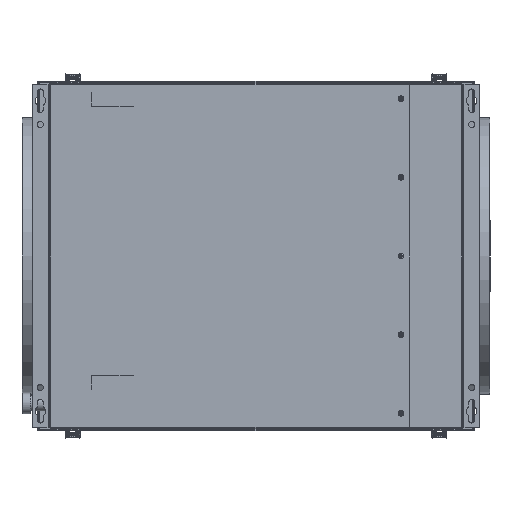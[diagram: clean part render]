
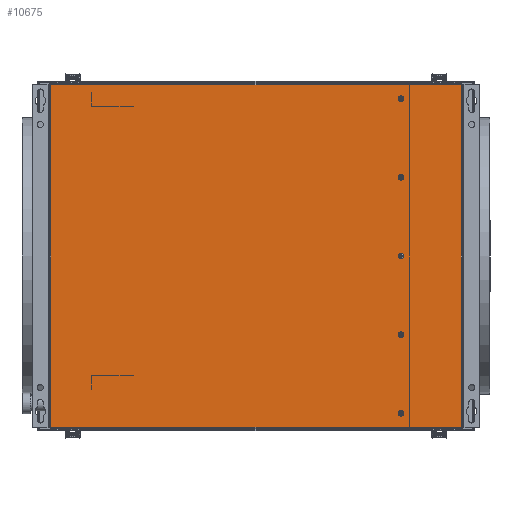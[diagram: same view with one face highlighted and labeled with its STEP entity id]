
A CAD part, front view. The second image highlights one B-rep face of the part: STEP entity #10675.
In plain terms, the highlighted planar face has unit normal (0, -1, 0).
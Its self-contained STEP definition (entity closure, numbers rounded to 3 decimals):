
#623 = DIRECTION ( 'NONE',  ( 0., -1., 0. ) ) ;
#824 = CARTESIAN_POINT ( 'NONE',  ( -297., 0., 248. ) ) ;
#950 = CARTESIAN_POINT ( 'NONE',  ( 210., 0., 114. ) ) ;
#1890 = CARTESIAN_POINT ( 'NONE',  ( 210., 0., -228. ) ) ;
#1962 = CARTESIAN_POINT ( 'NONE',  ( 210., 0., -2.1 ) ) ;
#2300 = VERTEX_POINT ( 'NONE', #7755 ) ;
#2608 = EDGE_CURVE ( 'NONE', #23075, #5868, #7716, .T. ) ;
#2943 = ORIENTED_EDGE ( 'NONE', *, *, #16197, .F. ) ;
#2991 = ORIENTED_EDGE ( 'NONE', *, *, #13151, .T. ) ;
#3013 = CARTESIAN_POINT ( 'NONE',  ( 210., 0., 114. ) ) ;
#3025 = CARTESIAN_POINT ( 'NONE',  ( 210., 0., -228. ) ) ;
#3406 = DIRECTION ( 'NONE',  ( 0., 0., -1. ) ) ;
#3686 = AXIS2_PLACEMENT_3D ( 'NONE', #3013, #19962, #5488 ) ;
#3791 = ORIENTED_EDGE ( 'NONE', *, *, #9512, .F. ) ;
#3836 = EDGE_LOOP ( 'NONE', ( #30073, #21617, #2991, #27615 ) ) ;
#4365 = DIRECTION ( 'NONE',  ( 0., 0., -1. ) ) ;
#4461 = CARTESIAN_POINT ( 'NONE',  ( -299., 0., -248. ) ) ;
#4492 = AXIS2_PLACEMENT_3D ( 'NONE', #950, #17934, #3406 ) ;
#4743 = DIRECTION ( 'NONE',  ( 0., 0., 1. ) ) ;
#4773 = CIRCLE ( 'NONE', #23057, 2.1 ) ;
#4850 = FACE_BOUND ( 'NONE', #6667, .T. ) ;
#4962 = CARTESIAN_POINT ( 'NONE',  ( 210., 0., 228. ) ) ;
#5082 = AXIS2_PLACEMENT_3D ( 'NONE', #25483, #10982, #27955 ) ;
#5154 = EDGE_CURVE ( 'NONE', #28450, #23031, #28671, .T. ) ;
#5400 = VERTEX_POINT ( 'NONE', #29621 ) ;
#5454 = AXIS2_PLACEMENT_3D ( 'NONE', #12189, #29173, #14609 ) ;
#5488 = DIRECTION ( 'NONE',  ( 0., 0., -1. ) ) ;
#5496 = DIRECTION ( 'NONE',  ( 0., 0., -1. ) ) ;
#5622 = FACE_BOUND ( 'NONE', #18305, .T. ) ;
#5682 = ORIENTED_EDGE ( 'NONE', *, *, #30146, .F. ) ;
#5857 = LINE ( 'NONE', #21885, #17968 ) ;
#5868 = VERTEX_POINT ( 'NONE', #8679 ) ;
#6095 = CIRCLE ( 'NONE', #5082, 2.1 ) ;
#6667 = EDGE_LOOP ( 'NONE', ( #9025, #11318 ) ) ;
#7201 = VECTOR ( 'NONE', #4743, 1000. ) ;
#7351 = EDGE_CURVE ( 'NONE', #5400, #10110, #28582, .T. ) ;
#7380 = DIRECTION ( 'NONE',  ( 0., 0., -1. ) ) ;
#7716 = CIRCLE ( 'NONE', #27277, 2.1 ) ;
#7755 = CARTESIAN_POINT ( 'NONE',  ( -297., 0., 248. ) ) ;
#8390 = CARTESIAN_POINT ( 'NONE',  ( 210., 0., 116.1 ) ) ;
#8679 = CARTESIAN_POINT ( 'NONE',  ( 210., 0., -116.1 ) ) ;
#8875 = EDGE_CURVE ( 'NONE', #23031, #28450, #6095, .T. ) ;
#9025 = ORIENTED_EDGE ( 'NONE', *, *, #5154, .F. ) ;
#9334 = DIRECTION ( 'NONE',  ( 1., 0., 0. ) ) ;
#9348 = DIRECTION ( 'NONE',  ( 0., -1., 0. ) ) ;
#9512 = EDGE_CURVE ( 'NONE', #12522, #28058, #28830, .T. ) ;
#9562 = VECTOR ( 'NONE', #9334, 1000. ) ;
#9595 = CARTESIAN_POINT ( 'NONE',  ( 297., 0., -248. ) ) ;
#9834 = VERTEX_POINT ( 'NONE', #9595 ) ;
#9932 = CIRCLE ( 'NONE', #4492, 2.1 ) ;
#10110 = VERTEX_POINT ( 'NONE', #20880 ) ;
#10474 = ORIENTED_EDGE ( 'NONE', *, *, #27893, .F. ) ;
#10564 = EDGE_LOOP ( 'NONE', ( #10474, #21278 ) ) ;
#10675 = ADVANCED_FACE ( 'NONE', ( #5622, #24169, #30634, #4850, #29882, #23402 ), #30154, .T. ) ;
#10874 = DIRECTION ( 'NONE',  ( 0., 0., -1. ) ) ;
#10982 = DIRECTION ( 'NONE',  ( 0., -1., 0. ) ) ;
#11318 = ORIENTED_EDGE ( 'NONE', *, *, #8875, .F. ) ;
#11468 = AXIS2_PLACEMENT_3D ( 'NONE', #4962, #21872, #7380 ) ;
#11551 = ORIENTED_EDGE ( 'NONE', *, *, #22915, .F. ) ;
#12189 = CARTESIAN_POINT ( 'NONE',  ( 210., 0., 228. ) ) ;
#12522 = VERTEX_POINT ( 'NONE', #28568 ) ;
#13151 = EDGE_CURVE ( 'NONE', #27077, #9834, #16713, .T. ) ;
#14096 = ORIENTED_EDGE ( 'NONE', *, *, #26622, .F. ) ;
#14246 = CARTESIAN_POINT ( 'NONE',  ( 210., 0., 0. ) ) ;
#14503 = CARTESIAN_POINT ( 'NONE',  ( 210., 0., 2.1 ) ) ;
#14609 = DIRECTION ( 'NONE',  ( 0., 0., -1. ) ) ;
#15151 = LINE ( 'NONE', #26475, #7201 ) ;
#15159 = CARTESIAN_POINT ( 'NONE',  ( 210., 0., -114. ) ) ;
#15966 = VERTEX_POINT ( 'NONE', #23197 ) ;
#16136 = VERTEX_POINT ( 'NONE', #21502 ) ;
#16170 = EDGE_LOOP ( 'NONE', ( #20737, #11551 ) ) ;
#16197 = EDGE_CURVE ( 'NONE', #16136, #15966, #29529, .T. ) ;
#16663 = DIRECTION ( 'NONE',  ( 0., 0., -1. ) ) ;
#16713 = LINE ( 'NONE', #4461, #9562 ) ;
#17591 = DIRECTION ( 'NONE',  ( 0., 0., -1. ) ) ;
#17934 = DIRECTION ( 'NONE',  ( 0., -1., 0. ) ) ;
#17968 = VECTOR ( 'NONE', #24348, 1000. ) ;
#18305 = EDGE_LOOP ( 'NONE', ( #3791, #5682 ) ) ;
#18867 = DIRECTION ( 'NONE',  ( 0., -1., 0. ) ) ;
#19474 = CARTESIAN_POINT ( 'NONE',  ( 210., 0., -111.9 ) ) ;
#19857 = EDGE_CURVE ( 'NONE', #9834, #27190, #15151, .T. ) ;
#19962 = DIRECTION ( 'NONE',  ( 0., -1., 0. ) ) ;
#19968 = DIRECTION ( 'NONE',  ( 0., -1., 0. ) ) ;
#20477 = CARTESIAN_POINT ( 'NONE',  ( 299., 0., 250. ) ) ;
#20737 = ORIENTED_EDGE ( 'NONE', *, *, #7351, .F. ) ;
#20880 = CARTESIAN_POINT ( 'NONE',  ( 210., 0., -225.9 ) ) ;
#21278 = ORIENTED_EDGE ( 'NONE', *, *, #2608, .F. ) ;
#21502 = CARTESIAN_POINT ( 'NONE',  ( 210., 0., 230.1 ) ) ;
#21617 = ORIENTED_EDGE ( 'NONE', *, *, #27980, .T. ) ;
#21872 = DIRECTION ( 'NONE',  ( 0., -1., 0. ) ) ;
#21885 = CARTESIAN_POINT ( 'NONE',  ( 299., 0., 248. ) ) ;
#22249 = CIRCLE ( 'NONE', #11468, 2.1 ) ;
#22454 = AXIS2_PLACEMENT_3D ( 'NONE', #1890, #18867, #4365 ) ;
#22915 = EDGE_CURVE ( 'NONE', #10110, #5400, #24523, .T. ) ;
#23031 = VERTEX_POINT ( 'NONE', #14503 ) ;
#23057 = AXIS2_PLACEMENT_3D ( 'NONE', #15159, #623, #17591 ) ;
#23075 = VERTEX_POINT ( 'NONE', #19474 ) ;
#23197 = CARTESIAN_POINT ( 'NONE',  ( 210., 0., 225.9 ) ) ;
#23402 = FACE_BOUND ( 'NONE', #16170, .T. ) ;
#23855 = CARTESIAN_POINT ( 'NONE',  ( 210., 0., -114. ) ) ;
#24169 = FACE_BOUND ( 'NONE', #27991, .T. ) ;
#24348 = DIRECTION ( 'NONE',  ( -1., 0., 0. ) ) ;
#24523 = CIRCLE ( 'NONE', #22454, 2.1 ) ;
#25126 = DIRECTION ( 'NONE',  ( 0., 0., -1. ) ) ;
#25384 = DIRECTION ( 'NONE',  ( 0., -1., 0. ) ) ;
#25483 = CARTESIAN_POINT ( 'NONE',  ( 210., 0., 0. ) ) ;
#26067 = CARTESIAN_POINT ( 'NONE',  ( -297., 0., -248. ) ) ;
#26298 = DIRECTION ( 'NONE',  ( 0., 0., -1. ) ) ;
#26475 = CARTESIAN_POINT ( 'NONE',  ( 297., 0., -248. ) ) ;
#26622 = EDGE_CURVE ( 'NONE', #15966, #16136, #22249, .T. ) ;
#26670 = AXIS2_PLACEMENT_3D ( 'NONE', #20477, #25384, #10874 ) ;
#27077 = VERTEX_POINT ( 'NONE', #26067 ) ;
#27190 = VERTEX_POINT ( 'NONE', #31232 ) ;
#27277 = AXIS2_PLACEMENT_3D ( 'NONE', #23855, #9348, #26298 ) ;
#27515 = VECTOR ( 'NONE', #25126, 1000. ) ;
#27615 = ORIENTED_EDGE ( 'NONE', *, *, #19857, .T. ) ;
#27893 = EDGE_CURVE ( 'NONE', #5868, #23075, #4773, .T. ) ;
#27955 = DIRECTION ( 'NONE',  ( 0., 0., -1. ) ) ;
#27980 = EDGE_CURVE ( 'NONE', #2300, #27077, #28282, .T. ) ;
#27991 = EDGE_LOOP ( 'NONE', ( #14096, #2943 ) ) ;
#28058 = VERTEX_POINT ( 'NONE', #8390 ) ;
#28282 = LINE ( 'NONE', #824, #27515 ) ;
#28450 = VERTEX_POINT ( 'NONE', #1962 ) ;
#28568 = CARTESIAN_POINT ( 'NONE',  ( 210., 0., 111.9 ) ) ;
#28582 = CIRCLE ( 'NONE', #30417, 2.1 ) ;
#28601 = EDGE_CURVE ( 'NONE', #27190, #2300, #5857, .T. ) ;
#28671 = CIRCLE ( 'NONE', #30986, 2.1 ) ;
#28830 = CIRCLE ( 'NONE', #3686, 2.1 ) ;
#29173 = DIRECTION ( 'NONE',  ( 0., -1., 0. ) ) ;
#29529 = CIRCLE ( 'NONE', #5454, 2.1 ) ;
#29621 = CARTESIAN_POINT ( 'NONE',  ( 210., 0., -230.1 ) ) ;
#29882 = FACE_BOUND ( 'NONE', #10564, .T. ) ;
#30073 = ORIENTED_EDGE ( 'NONE', *, *, #28601, .T. ) ;
#30146 = EDGE_CURVE ( 'NONE', #28058, #12522, #9932, .T. ) ;
#30154 = PLANE ( 'NONE',  #26670 ) ;
#30417 = AXIS2_PLACEMENT_3D ( 'NONE', #3025, #19968, #5496 ) ;
#30634 = FACE_OUTER_BOUND ( 'NONE', #3836, .T. ) ;
#30986 = AXIS2_PLACEMENT_3D ( 'NONE', #14246, #31211, #16663 ) ;
#31211 = DIRECTION ( 'NONE',  ( 0., -1., 0. ) ) ;
#31232 = CARTESIAN_POINT ( 'NONE',  ( 297., 0., 248. ) ) ;
